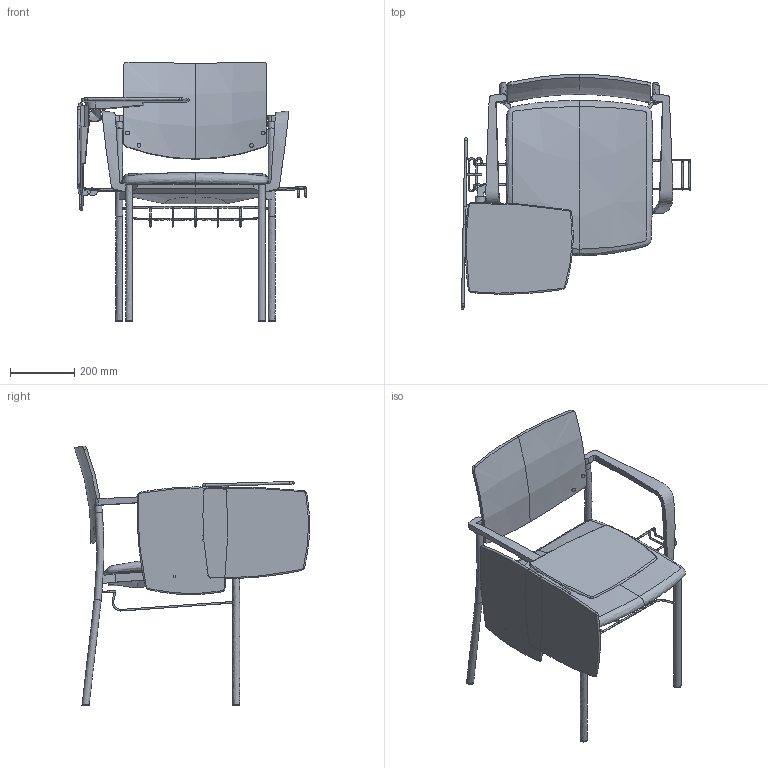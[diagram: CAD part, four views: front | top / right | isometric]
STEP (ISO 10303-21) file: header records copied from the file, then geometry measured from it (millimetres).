
FILE_DESCRIPTION(/* description */ (''),/* implementation_level */ '2;1');
FILE_NAME(/* name */ 'Seance 091-BR+dopl',/* time_stamp */ '2020-03-26T15:27:01+01:00',/* author */ (''),/* organization */ (''),/* preprocessor_version */ 'ST-DEVELOPER v16.5',/* originating_system */ '',/* authorisation */ '');
FILE_SCHEMA (('AUTOMOTIVE_DESIGN'));
Length unit declared in the file: millimetre
Products named in the file (1): Document
Bounding box: 712.65 x 731.3 x 807.99 mm (x, y, z)
Volume: 12256940.5 mm3; surface area: 2058188.2 mm2
Topology: 36 solids, 56 shells, 382 faces, 803 edges, 511 vertices
Faces by surface type: bspline 231, plane 151
Entity records: 18764 total; most frequent: CARTESIAN_POINT 13449, ORIENTED_EDGE 1560, EDGE_CURVE 800, VERTEX_POINT 505, EDGE_LOOP 390, ADVANCED_FACE 382, FACE_OUTER_BOUND 382, B_SPLINE_CURVE_WITH_KNOTS 380
